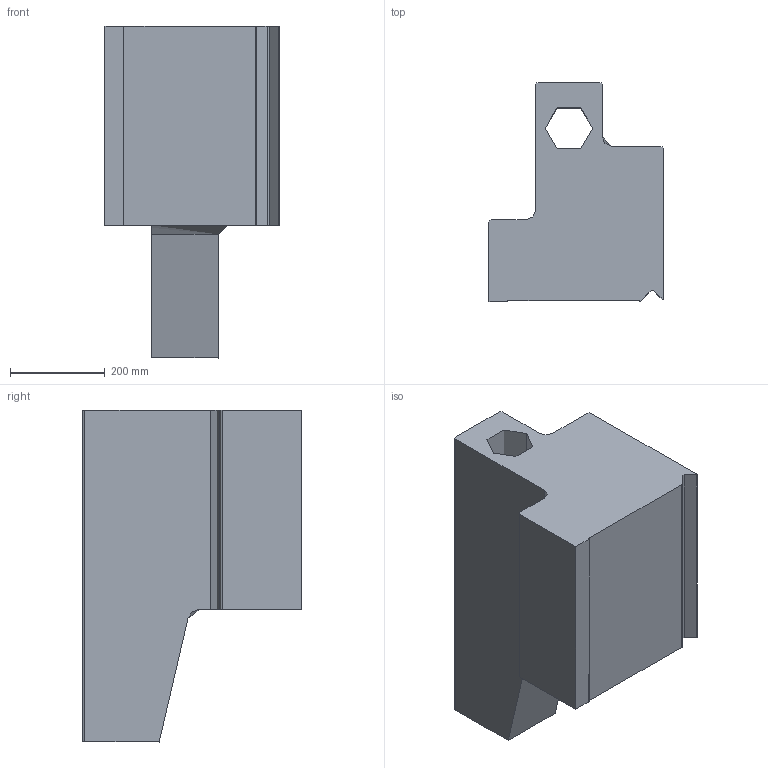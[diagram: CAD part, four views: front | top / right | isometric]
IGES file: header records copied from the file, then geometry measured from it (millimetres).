
Start section: This line is the first line of the start section. You can replace these lines and/or  add as many as you want.
Global section: file name: /dsk_ncs/ncsimul/support/trans/_bcd/v.igs; native system: COMPUTERVISION CADDS5 REV 5.3.2 GRAPHIC SYSTEM; preprocessor: CV Translators IGES/VDA Revision 2.1, STEP Revision 1.2; author: Author; organization: Organization; date: 970731.110932; units: millimetre
Bounding box: 367 x 462 x 700 mm (x, y, z)
Topology: 0 solids, 0 shells, 33 faces, 214 edges, 214 vertices
Faces by surface type: bspline 32, plane 1
